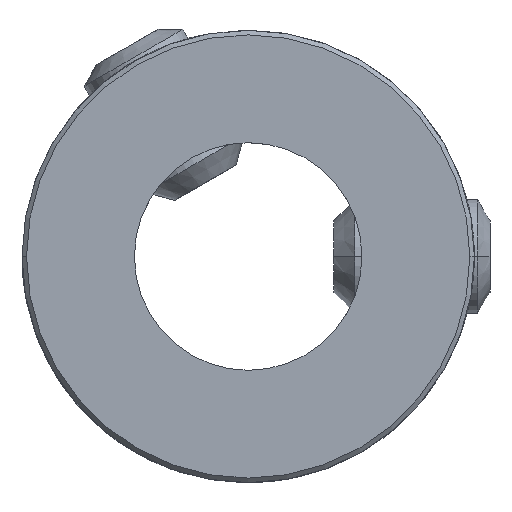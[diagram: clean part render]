
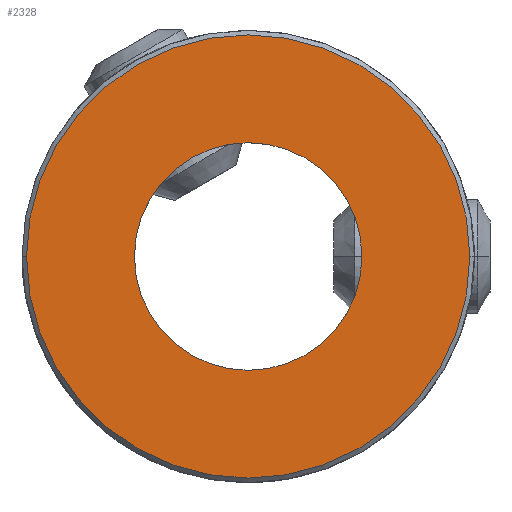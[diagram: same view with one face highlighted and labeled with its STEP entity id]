
A CAD part, front view. The second image highlights one B-rep face of the part: STEP entity #2328.
In plain terms, the highlighted planar face has unit normal (0, -1, 0).
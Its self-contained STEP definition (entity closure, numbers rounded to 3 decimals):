
#1=CARTESIAN_POINT('',(0.,-12.7,
0.));
#2=DIRECTION('',(0.,-1.,0.));
#3=DIRECTION('',(-1.,0.,0.));
#4=AXIS2_PLACEMENT_3D('',#1,#2,#3);
#6=CARTESIAN_POINT('',(0.,-12.7,0.));
#7=DIRECTION('',(0.,-1.,0.));
#8=DIRECTION('',(1.,0.,0.));
#9=AXIS2_PLACEMENT_3D('',#6,#7,#8);
#11=CARTESIAN_POINT('',(0.,-12.7,0.));
#12=DIRECTION('',(0.,1.,0.));
#13=DIRECTION('',(1.,0.,0.));
#14=AXIS2_PLACEMENT_3D('',#11,#12,#13);
#16=CARTESIAN_POINT('',(0.,-12.7,0.));
#17=DIRECTION('',(0.,1.,0.));
#18=DIRECTION('',(-1.,0.,0.));
#19=AXIS2_PLACEMENT_3D('',#16,#17,#18);
#2109=CARTESIAN_POINT('',(4.,-12.7,0.));
#2110=CARTESIAN_POINT('',(-4.,-12.7,0.));
#2111=VERTEX_POINT('',#2109);
#2112=VERTEX_POINT('',#2110);
#2137=CARTESIAN_POINT('',(-7.79,-12.7,0.));
#2138=CARTESIAN_POINT('',(7.79,-12.7,0.));
#2139=VERTEX_POINT('',#2137);
#2140=VERTEX_POINT('',#2138);
#2311=CARTESIAN_POINT('',(0.,-12.7,0.));
#2312=DIRECTION('',(0.,1.,0.));
#2313=DIRECTION('',(1.,0.,0.));
#2314=AXIS2_PLACEMENT_3D('',#2311,#2312,#2313);
#2315=PLANE('',#2314);
#2317=ORIENTED_EDGE('',*,*,#2316,.F.);
#2319=ORIENTED_EDGE('',*,*,#2318,.F.);
#2320=EDGE_LOOP('',(#2317,#2319));
#2321=FACE_OUTER_BOUND('',#2320,.F.);
#2323=ORIENTED_EDGE('',*,*,#2322,.F.);
#2325=ORIENTED_EDGE('',*,*,#2324,.F.);
#2326=EDGE_LOOP('',(#2323,#2325));
#2327=FACE_BOUND('',#2326,.F.);
#2328=ADVANCED_FACE('',(#2321,#2327),#2315,.F.);
#5=CIRCLE('',#4,7.79);
#10=CIRCLE('',#9,7.79);
#15=CIRCLE('',#14,4.);
#20=CIRCLE('',#19,4.);
#2316=EDGE_CURVE('',#2139,#2140,#5,.T.);
#2318=EDGE_CURVE('',#2140,#2139,#10,.T.);
#2322=EDGE_CURVE('',#2111,#2112,#15,.T.);
#2324=EDGE_CURVE('',#2112,#2111,#20,.T.);
